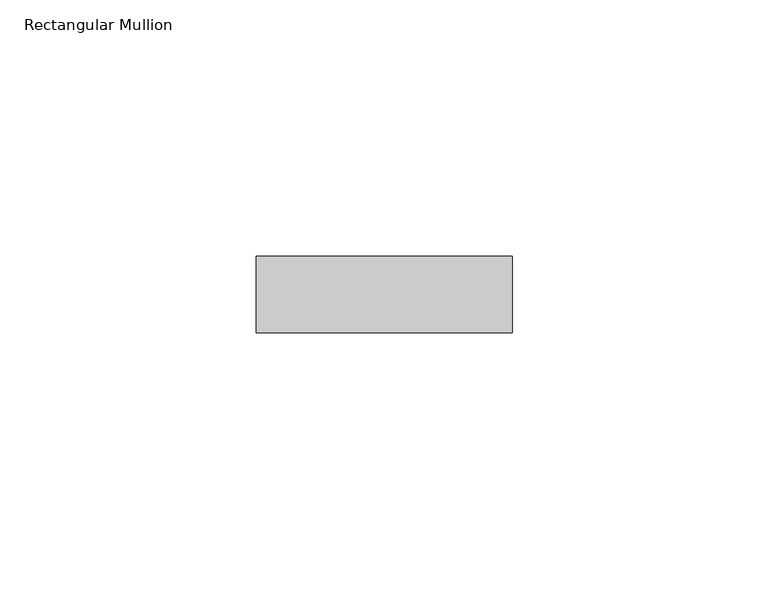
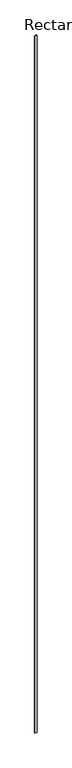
"""IFC4 building model written with IfcOpenShell, lengths in millimetres: member geometry, Rectangular Mullion : Ripa."""

from ifc_helpers import new_model, si_unit, frame, origin, place, context, project, spatial, polyline, outline, extrude, source, transform, mapped, element, save


def rectangular_mullion_61a0b4b4(model_context):
    return source(origin(), model_context, "Body", "SweptSolid", [
        extrude(outline(polyline([(-50.0, -75.0), (-50.0, -60.0), (0.0, -60.0), (0.0, -75.0), (-50.0, -75.0)])), frame((0.0, 0.0, -19150.0), z_axis=(0.0, 0.0, 1.0), x_axis=(1.0, 0.0, 0.0)), (0.0, 0.0, 1.0), 19150.0),
    ])


if __name__ == "__main__":
    model = new_model("IFC4")
    model_context = context("Model", 3, world=origin())
    ifc_project = project(units=[si_unit("LENGTHUNIT", "METRE", prefix="MILLI")], contexts=[model_context])
    site = spatial("IfcSite", under=ifc_project)
    building = spatial("IfcBuilding", under=site)
    placement = place(None, origin())
    rectangular_mullion_shape = rectangular_mullion_61a0b4b4(model_context)
    element("IfcMember", 1, ObjectType="Rectangular Mullion : Ripa", at=placement, inside=building, context=model_context, shape_type="MappedRepresentation", body=[
        mapped(rectangular_mullion_shape, transform((0.0, 0.0, 0.0), x_axis=(1.0, 0.0, 0.0), y_axis=(0.0, 1.0, 0.0), z_axis=(0.0, 0.0, 1.0))),
    ])
    save(model, "model.ifc")
